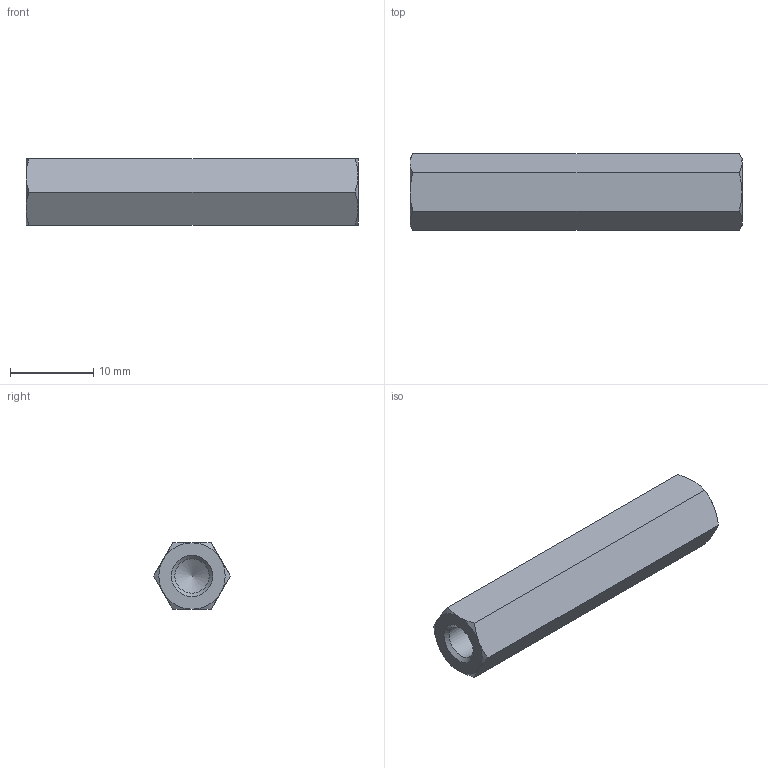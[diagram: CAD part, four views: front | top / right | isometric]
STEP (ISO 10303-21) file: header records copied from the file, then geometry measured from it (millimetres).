
FILE_DESCRIPTION( ( 'STEP AP203' ), '1' );
FILE_NAME( 'C:/Temp/Ganter_Step_05_03_2020/data/3_2/gn6220/gn6220_st/Spacer GN 6220-ST-M5-40-A.stp', '2020-03-13T05:42:27', ( 'License CC BY-ND 4.0' ), ( 'CADENAS' ), ' ', 'PARTsolutions', ' ' );
FILE_SCHEMA( ( 'CONFIG_CONTROL_DESIGN' ) );
Length unit declared in the file: millimetre
Products named in the file (1): _Spacer GN 6220-ST-M5-40-A
Bounding box: 40 x 9.24 x 8 mm (x, y, z)
Volume: 1821 mm3; surface area: 1581.4 mm2
Topology: 1 solids, 1 shells, 26 faces, 57 edges, 33 vertices
Faces by surface type: cone 16, plane 8, cylinder 2
Full cylindrical faces by diameter (mm): 4.134 x2
Entity records: 750 total; most frequent: CARTESIAN_POINT 211, DIRECTION 96, ORIENTED_EDGE 96, EDGE_CURVE 48, AXIS2_PLACEMENT_3D 45, EDGE_LOOP 32, VERTEX_POINT 32, FACE_OUTER_BOUND 28
